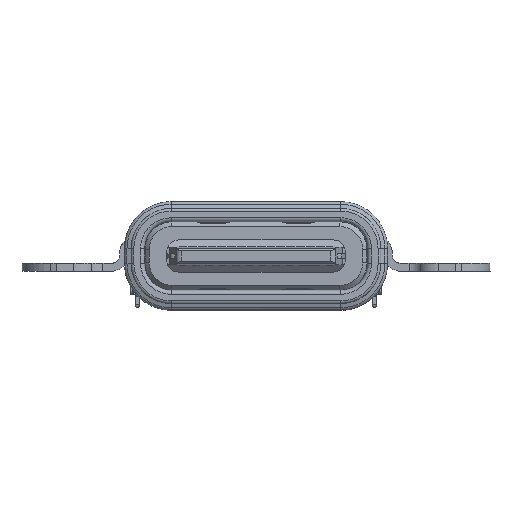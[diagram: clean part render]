
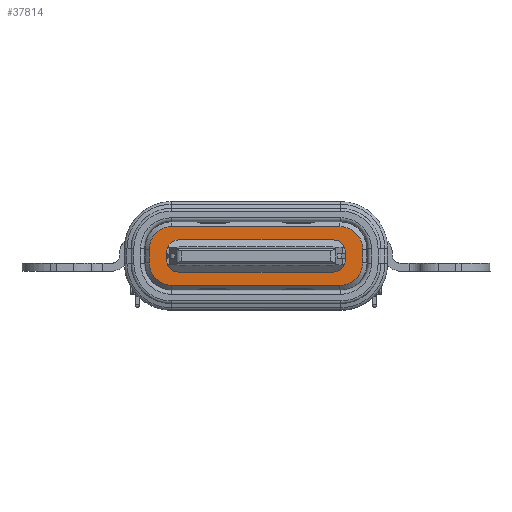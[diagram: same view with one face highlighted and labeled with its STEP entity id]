
A CAD part, front view. The second image highlights one B-rep face of the part: STEP entity #37814.
In plain terms, the highlighted planar face has unit normal (0, -1, 0) as drawn and (1, 0, 0) by its records, which use the part's own axes.
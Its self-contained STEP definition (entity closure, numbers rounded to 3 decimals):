
#31107=CARTESIAN_POINT('',(25.55,1.853,-21.145));
#31108=VERTEX_POINT('',#31107);
#31109=CARTESIAN_POINT('',(25.55,1.003,-21.995));
#31110=VERTEX_POINT('',#31109);
#31111=CARTESIAN_POINT('',(25.55,1.853,-21.145));
#31112=CARTESIAN_POINT('',(25.55,1.853,-21.368));
#31113=CARTESIAN_POINT('',(25.55,1.761,-21.589));
#31114=CARTESIAN_POINT('',(25.55,1.447,-21.903));
#31115=CARTESIAN_POINT('',(25.55,1.226,-21.995));
#31116=CARTESIAN_POINT('',(25.55,1.003,-21.995));
#31117=B_SPLINE_CURVE_WITH_KNOTS('',3,(#31111,#31112,#31113,#31114,#31115,#31116),.UNSPECIFIED.,.F.,.U.,
 (4,2,4),(0.0,0.684,1.369),.UNSPECIFIED.);
#31118=EDGE_CURVE('no 50230',#31108,#31110,#31117,.T.);
#31154=CARTESIAN_POINT('',(25.55,0.828,-21.995));
#31155=VERTEX_POINT('',#31154);
#31156=CARTESIAN_POINT('',(25.55,1.003,-21.995));
#31157=DIRECTION('',(0.,-1.0,0.));
#31158=VECTOR('',#31157,1.0);
#31159=LINE('',#31156,#31158);
#31160=EDGE_CURVE('no 46450',#31110,#31155,#31159,.T.);
#31162=CARTESIAN_POINT('',(25.55,0.503,-21.995));
#31163=VERTEX_POINT('',#31162);
#31164=CARTESIAN_POINT('',(25.55,0.828,-21.995));
#31165=DIRECTION('',(0.,-1.0,0.));
#31166=VECTOR('',#31165,1.0);
#31167=LINE('',#31164,#31166);
#31168=EDGE_CURVE('no 35938',#31155,#31163,#31167,.T.);
#31201=CARTESIAN_POINT('',(25.55,-0.347,-21.145));
#31202=VERTEX_POINT('',#31201);
#31203=CARTESIAN_POINT('',(25.55,-0.347,-21.145));
#31204=CARTESIAN_POINT('',(25.55,-0.347,-21.258));
#31205=CARTESIAN_POINT('',(25.55,-0.325,-21.366));
#31206=CARTESIAN_POINT('',(25.55,-0.239,-21.574));
#31207=CARTESIAN_POINT('',(25.55,-0.177,-21.667));
#31208=CARTESIAN_POINT('',(25.55,-0.019,-21.826));
#31209=CARTESIAN_POINT('',(25.55,0.074,-21.887));
#31210=CARTESIAN_POINT('',(25.55,0.282,-21.973));
#31211=CARTESIAN_POINT('',(25.55,0.39,-21.995));
#31212=CARTESIAN_POINT('',(25.55,0.503,-21.995));
#31213=B_SPLINE_CURVE_WITH_KNOTS('',3,(#31203,#31204,#31205,#31206,#31207,#31208,#31209,#31210,#31211,#31212),.UNSPECIFIED.,.F.,.U.,
 (4,2,2,2,4),(0.0,0.336,0.672,1.008,1.344),.UNSPECIFIED.);
#31214=EDGE_CURVE('no 34738',#31202,#31163,#31213,.T.);
#31275=CARTESIAN_POINT('',(25.55,0.828,-14.005));
#31276=VERTEX_POINT('',#31275);
#31277=CARTESIAN_POINT('',(25.55,1.003,-14.005));
#31278=VERTEX_POINT('',#31277);
#31279=CARTESIAN_POINT('',(25.55,0.828,-14.005));
#31280=DIRECTION('',(0.,1.0,0.));
#31281=VECTOR('',#31280,1.0);
#31282=LINE('',#31279,#31281);
#31283=EDGE_CURVE('no 24620',#31276,#31278,#31282,.T.);
#31293=CARTESIAN_POINT('',(25.55,0.503,-14.005));
#31294=VERTEX_POINT('',#31293);
#31301=CARTESIAN_POINT('',(25.55,0.503,-14.005));
#31302=DIRECTION('',(0.,1.0,0.));
#31303=VECTOR('',#31302,1.0);
#31304=LINE('',#31301,#31303);
#31305=EDGE_CURVE('no 28363',#31294,#31276,#31304,.T.);
#31318=CARTESIAN_POINT('',(25.55,1.853,-14.855));
#31319=VERTEX_POINT('',#31318);
#31320=CARTESIAN_POINT('',(25.55,1.003,-14.005));
#31321=CARTESIAN_POINT('',(25.55,1.226,-14.005));
#31322=CARTESIAN_POINT('',(25.55,1.447,-14.097));
#31323=CARTESIAN_POINT('',(25.55,1.761,-14.411));
#31324=CARTESIAN_POINT('',(25.55,1.853,-14.632));
#31325=CARTESIAN_POINT('',(25.55,1.853,-14.855));
#31326=B_SPLINE_CURVE_WITH_KNOTS('',3,(#31320,#31321,#31322,#31323,#31324,#31325),.UNSPECIFIED.,.F.,.U.,
 (4,2,4),(0.0,0.684,1.369),.UNSPECIFIED.);
#31327=EDGE_CURVE('no 2772',#31278,#31319,#31326,.T.);
#31393=CARTESIAN_POINT('',(25.55,-0.347,-14.855));
#31394=VERTEX_POINT('',#31393);
#31395=CARTESIAN_POINT('',(25.55,0.503,-14.005));
#31396=CARTESIAN_POINT('',(25.55,0.39,-14.005));
#31397=CARTESIAN_POINT('',(25.55,0.282,-14.027));
#31398=CARTESIAN_POINT('',(25.55,0.074,-14.113));
#31399=CARTESIAN_POINT('',(25.55,-0.019,-14.175));
#31400=CARTESIAN_POINT('',(25.55,-0.178,-14.333));
#31401=CARTESIAN_POINT('',(25.55,-0.239,-14.426));
#31402=CARTESIAN_POINT('',(25.55,-0.325,-14.634));
#31403=CARTESIAN_POINT('',(25.55,-0.347,-14.742));
#31404=CARTESIAN_POINT('',(25.55,-0.347,-14.855));
#31405=B_SPLINE_CURVE_WITH_KNOTS('',3,(#31395,#31396,#31397,#31398,#31399,#31400,#31401,#31402,#31403,#31404),.UNSPECIFIED.,.F.,.U.,
 (4,2,2,2,4),(0.0,0.336,0.672,1.008,1.344),.UNSPECIFIED.);
#31406=EDGE_CURVE('no 18588',#31294,#31394,#31405,.T.);
#32232=CARTESIAN_POINT('',(25.55,-0.347,-21.145));
#32233=DIRECTION('',(-0.0,-0.0,1.0));
#32234=VECTOR('',#32233,1.0);
#32235=LINE('',#32232,#32234);
#32236=EDGE_CURVE('no 37581',#31202,#31394,#32235,.T.);
#37698=CARTESIAN_POINT('',(25.55,1.353,-20.895));
#37699=VERTEX_POINT('',#37698);
#37700=CARTESIAN_POINT('',(25.55,0.903,-21.345));
#37701=VERTEX_POINT('',#37700);
#37702=CARTESIAN_POINT('',(25.55,1.353,-20.895));
#37703=CARTESIAN_POINT('',(25.55,1.353,-21.014));
#37704=CARTESIAN_POINT('',(25.55,1.305,-21.129));
#37705=CARTESIAN_POINT('',(25.55,1.137,-21.297));
#37706=CARTESIAN_POINT('',(25.55,1.023,-21.345));
#37707=CARTESIAN_POINT('',(25.55,0.903,-21.345));
#37708=B_SPLINE_CURVE_WITH_KNOTS('',3,(#37702,#37703,#37704,#37705,#37706,#37707),.UNSPECIFIED.,.F.,.U.,
 (4,2,4),(0.0,0.5,1.0),.UNSPECIFIED.);
#37709=EDGE_CURVE('no 48707',#37699,#37701,#37708,.T.);
#37710=ORIENTED_EDGE('no 51568',*,*,#37709,.T.);
#37711=CARTESIAN_POINT('',(25.55,0.828,-21.345));
#37712=VERTEX_POINT('',#37711);
#37713=CARTESIAN_POINT('',(25.55,0.903,-21.345));
#37714=DIRECTION('',(0.,-1.0,0.0));
#37715=VECTOR('',#37714,1.0);
#37716=LINE('',#37713,#37715);
#37717=EDGE_CURVE('no 9323',#37701,#37712,#37716,.T.);
#37718=ORIENTED_EDGE('no 50359',*,*,#37717,.T.);
#37719=CARTESIAN_POINT('',(25.55,0.603,-21.345));
#37720=VERTEX_POINT('',#37719);
#37721=CARTESIAN_POINT('',(25.55,0.828,-21.345));
#37722=DIRECTION('',(0.,-1.0,0.0));
#37723=VECTOR('',#37722,1.0);
#37724=LINE('',#37721,#37723);
#37725=EDGE_CURVE('no 52128',#37712,#37720,#37724,.T.);
#37726=ORIENTED_EDGE('no 48401',*,*,#37725,.T.);
#37727=CARTESIAN_POINT('',(25.55,0.153,-20.895));
#37728=VERTEX_POINT('',#37727);
#37729=CARTESIAN_POINT('',(25.55,0.603,-21.345));
#37730=CARTESIAN_POINT('',(25.55,0.484,-21.345));
#37731=CARTESIAN_POINT('',(25.55,0.369,-21.297));
#37732=CARTESIAN_POINT('',(25.55,0.201,-21.129));
#37733=CARTESIAN_POINT('',(25.55,0.153,-21.015));
#37734=CARTESIAN_POINT('',(25.55,0.153,-20.895));
#37735=B_SPLINE_CURVE_WITH_KNOTS('',3,(#37729,#37730,#37731,#37732,#37733,#37734),.UNSPECIFIED.,.F.,.U.,
 (4,2,4),(0.0,0.5,1.0),.UNSPECIFIED.);
#37736=EDGE_CURVE('no 16451',#37720,#37728,#37735,.T.);
#37737=ORIENTED_EDGE('no 13573',*,*,#37736,.T.);
#37738=CARTESIAN_POINT('',(25.55,0.153,-15.105));
#37739=VERTEX_POINT('',#37738);
#37740=CARTESIAN_POINT('',(25.55,0.153,-20.895));
#37741=DIRECTION('',(0.0,0.0,1.0));
#37742=VECTOR('',#37741,1.0);
#37743=LINE('',#37740,#37742);
#37744=EDGE_CURVE('no 20961',#37728,#37739,#37743,.T.);
#37745=ORIENTED_EDGE('no 6885',*,*,#37744,.T.);
#37746=CARTESIAN_POINT('',(25.55,0.603,-14.655));
#37747=VERTEX_POINT('',#37746);
#37748=CARTESIAN_POINT('',(25.55,0.153,-15.105));
#37749=CARTESIAN_POINT('',(25.55,0.153,-14.986));
#37750=CARTESIAN_POINT('',(25.55,0.201,-14.871));
#37751=CARTESIAN_POINT('',(25.55,0.369,-14.703));
#37752=CARTESIAN_POINT('',(25.55,0.483,-14.655));
#37753=CARTESIAN_POINT('',(25.55,0.603,-14.655));
#37754=B_SPLINE_CURVE_WITH_KNOTS('',3,(#37748,#37749,#37750,#37751,#37752,#37753),.UNSPECIFIED.,.F.,.U.,
 (4,2,4),(0.0,0.5,1.0),.UNSPECIFIED.);
#37755=EDGE_CURVE('no 51320',#37739,#37747,#37754,.T.);
#37756=ORIENTED_EDGE('no 1675',*,*,#37755,.T.);
#37757=CARTESIAN_POINT('',(25.55,0.828,-14.655));
#37758=VERTEX_POINT('',#37757);
#37759=CARTESIAN_POINT('',(25.55,0.603,-14.655));
#37760=DIRECTION('',(0.,1.0,-0.0));
#37761=VECTOR('',#37760,1.0);
#37762=LINE('',#37759,#37761);
#37763=EDGE_CURVE('no 38720',#37747,#37758,#37762,.T.);
#37764=ORIENTED_EDGE('no 42949',*,*,#37763,.T.);
#37765=CARTESIAN_POINT('',(25.55,0.903,-14.655));
#37766=VERTEX_POINT('',#37765);
#37767=CARTESIAN_POINT('',(25.55,0.828,-14.655));
#37768=DIRECTION('',(0.,1.0,-0.0));
#37769=VECTOR('',#37768,1.0);
#37770=LINE('',#37767,#37769);
#37771=EDGE_CURVE('no 31649',#37758,#37766,#37770,.T.);
#37772=ORIENTED_EDGE('no 41331',*,*,#37771,.T.);
#37773=CARTESIAN_POINT('',(25.55,1.353,-15.105));
#37774=VERTEX_POINT('',#37773);
#37775=CARTESIAN_POINT('',(25.55,0.903,-14.655));
#37776=CARTESIAN_POINT('',(25.55,1.022,-14.655));
#37777=CARTESIAN_POINT('',(25.55,1.137,-14.703));
#37778=CARTESIAN_POINT('',(25.55,1.305,-14.871));
#37779=CARTESIAN_POINT('',(25.55,1.353,-14.985));
#37780=CARTESIAN_POINT('',(25.55,1.353,-15.105));
#37781=B_SPLINE_CURVE_WITH_KNOTS('',3,(#37775,#37776,#37777,#37778,#37779,#37780),.UNSPECIFIED.,.F.,.U.,
 (4,2,4),(0.0,0.5,1.0),.UNSPECIFIED.);
#37782=EDGE_CURVE('no 42244',#37766,#37774,#37781,.T.);
#37783=ORIENTED_EDGE('no 17395',*,*,#37782,.T.);
#37784=CARTESIAN_POINT('',(25.55,1.353,-15.105));
#37785=DIRECTION('',(0.0,-0.0,-1.0));
#37786=VECTOR('',#37785,1.0);
#37787=LINE('',#37784,#37786);
#37788=EDGE_CURVE('no 20581',#37774,#37699,#37787,.T.);
#37789=ORIENTED_EDGE('no 46455',*,*,#37788,.T.);
#37790=EDGE_LOOP('',(#37710,#37718,#37726,#37737,#37745,#37756,#37764,#37772,#37783,#37789));
#37791=FACE_BOUND('',#37790,.T.);
#37792=ORIENTED_EDGE('no 36021',*,*,#32236,.F.);
#37793=ORIENTED_EDGE('no 14087',*,*,#31214,.T.);
#37794=ORIENTED_EDGE('no 50022',*,*,#31168,.F.);
#37795=ORIENTED_EDGE('no 10973',*,*,#31160,.F.);
#37796=ORIENTED_EDGE('no 4051',*,*,#31118,.F.);
#37797=CARTESIAN_POINT('',(25.55,1.853,-21.145));
#37798=DIRECTION('',(-0.0,-0.0,1.0));
#37799=VECTOR('',#37798,1.0);
#37800=LINE('',#37797,#37799);
#37801=EDGE_CURVE('no 30350',#31108,#31319,#37800,.T.);
#37802=ORIENTED_EDGE('no 14758',*,*,#37801,.T.);
#37803=ORIENTED_EDGE('no 48659',*,*,#31327,.F.);
#37804=ORIENTED_EDGE('no 41191',*,*,#31283,.F.);
#37805=ORIENTED_EDGE('no 9157',*,*,#31305,.F.);
#37806=ORIENTED_EDGE('no 1473',*,*,#31406,.T.);
#37807=EDGE_LOOP('',(#37792,#37793,#37794,#37795,#37796,#37802,#37803,#37804,#37805,#37806));
#37808=FACE_OUTER_BOUND('',#37807,.T.);
#37809=CARTESIAN_POINT('',(25.55,-0.347,-14.005));
#37810=DIRECTION('',(1.0,0.0,0.0));
#37811=DIRECTION('',(-0.0,1.0,0.0));
#37812=AXIS2_PLACEMENT_3D('',#37809,#37810,#37811);
#37813=PLANE('',#37812);
#37814=ADVANCED_FACE('no 22198',(#37791,#37808),#37813,.T.);
